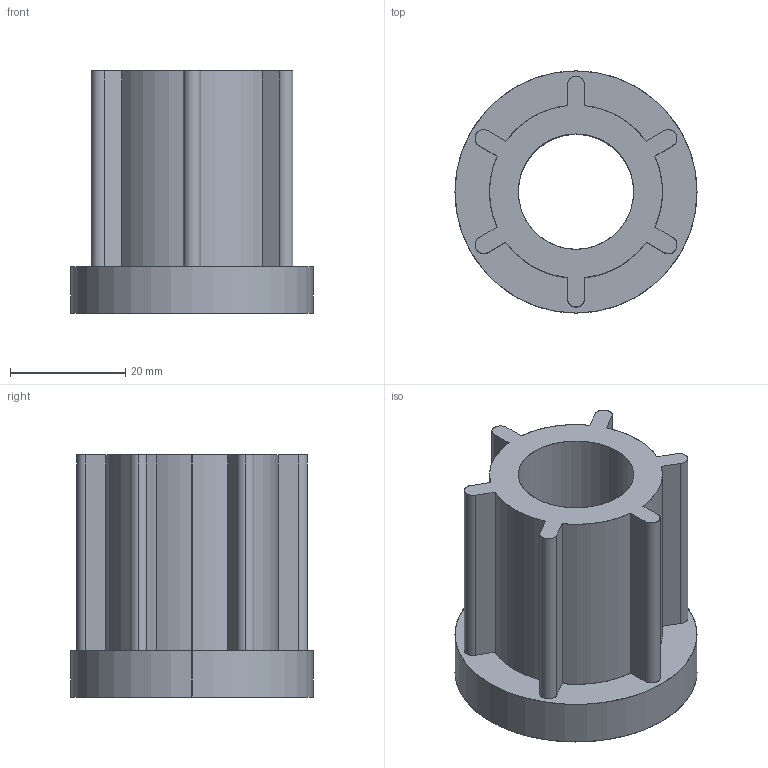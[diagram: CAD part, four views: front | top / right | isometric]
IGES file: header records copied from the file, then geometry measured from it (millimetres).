
Start section: SolidWorks IGES file using analytic representation for surfaces
Global section: file name: C:\Documents and Settings\URETIM3\Desktop\yeni katalog tolgay düzenli\A kataloðu\235 yuvarlak profil klavuzlari\235 421 520.IGS; native system: SolidWorks 2006 by SolidWorks Corporation; preprocessor: SolidWorks 2006 by SolidWorks Corporation; author: URETIM3; date: 060912.093748; units: millimetre
Bounding box: 42 x 42 x 42 mm (x, y, z)
Surface area: 10848.8 mm2 (no closed solid volume)
Topology: 0 solids, 0 shells, 38 faces, 636 edges, 636 vertices
Faces by surface type: revolution 23, bspline 15
